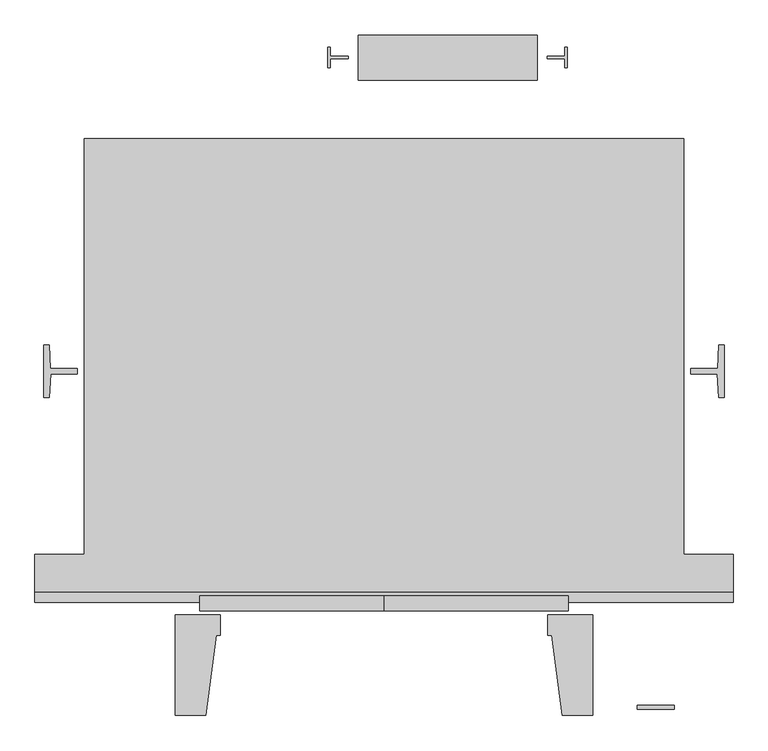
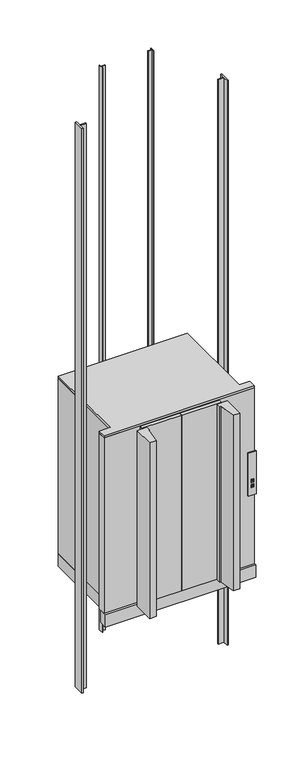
"""IFC4 building model written with IfcOpenShell, lengths in millimetres: proxy geometry, エレベーター一般1 : 6人乗."""

from ifc_helpers import new_model, si_unit, frame, origin, origin_with_axes, place, context, project, spatial, polyline, outline, extrude, source, transform, mapped, element, save


def mechanical_equipment_3dd84d69(model_context):
    return source(origin(), model_context, "Body", "SweptSolid", [
        extrude(outline(polyline([(-63.2844833, 1532.5), (372.9155167, 1532.5), (372.9155167, 1422.5), (-63.2844833, 1422.5), (-63.2844833, 1532.5)])), frame((0.0, 0.0, 500.0), z_axis=(0.0, 0.0, 1.0), x_axis=(1.0, 0.0, 0.0)), (0.0, 0.0, 1.0), 500.0),
        extrude(outline(polyline([(-811.9999995, 706.7521919), (-814.9999995, 649.5525318), (-827.9999995, 649.5525318), (-827.9999995, 776.5525318), (-814.9999995, 776.5525318), (-812.0862173, 719.2478081), (-747.0, 719.2478081), (-747.0, 706.7521919), (-811.9999995, 706.7521919)])), frame((0.0, 0.0, -1250.0), z_axis=(0.0, 0.0, 1.0), x_axis=(1.0, 0.0, 0.0)), (0.0, 0.0, 1.0), 6750.0),
        extrude(outline(polyline([(814.9999995, 649.5525318), (811.9999995, 706.7521919), (747.0, 706.7521919), (747.0, 719.2478081), (812.0862173, 719.2478081), (814.9999995, 776.5525318), (827.9999995, 776.5525318), (827.9999995, 649.5525318), (814.9999995, 649.5525318)])), frame((0.0, 0.0, -1250.0), z_axis=(0.0, 0.0, 1.0), x_axis=(1.0, 0.0, 0.0)), (0.0, 0.0, 1.0), 6750.0),
        extrude(outline(polyline([(397.2155167, 1474.5), (397.2155167, 1480.5), (440.7155167, 1480.5), (440.7155167, 1502.5), (446.7155167, 1502.5), (446.7155167, 1452.5), (440.7155167, 1452.5), (440.7155167, 1474.5), (397.2155167, 1474.5)])), frame((0.0, 0.0, -1250.0), z_axis=(0.0, 0.0, 1.0), x_axis=(1.0, 0.0, 0.0)), (0.0, 0.0, 1.0), 6750.0),
        extrude(outline(polyline([(-87.5844833, 1474.5), (-131.0844833, 1474.5), (-131.0844833, 1452.5), (-137.0844833, 1452.5), (-137.0844833, 1502.5), (-131.0844833, 1502.5), (-131.0844833, 1480.5), (-87.5844833, 1480.5), (-87.5844833, 1474.5)])), frame((0.0, 0.0, -1250.0), z_axis=(0.0, 0.0, 1.0), x_axis=(1.0, 0.0, 0.0)), (0.0, 0.0, 1.0), 6750.0),
        extrude(outline(polyline([(1241.6088693, 661.5), (1224.2883612, 651.5), (1224.2883612, 671.5), (1241.6088693, 661.5)])), frame((0.0, -110.0, 0.0), z_axis=(0.0, 1.0, 0.0), x_axis=(0.0, 0.0, 1.0)), (0.0, 0.0, 1.0), 5.0),
        extrude(outline(polyline([(1175.7116388, 651.5), (1158.3911307, 661.5), (1175.7116388, 671.5), (1175.7116388, 651.5)])), frame((0.0, -110.0, 0.0), z_axis=(0.0, 1.0, 0.0), x_axis=(0.0, 0.0, 1.0)), (0.0, 0.0, 1.0), 5.0),
        extrude(outline(polyline([(1190.0, 676.5), (1190.0, 646.5), (1150.0, 646.5), (1150.0, 676.5), (1190.0, 676.5)]), holes=[polyline([(1175.7116388, 651.5), (1175.7116388, 671.5), (1158.3911307, 661.5), (1175.7116388, 651.5)])]), frame((0.0, -110.0, 0.0), z_axis=(0.0, 1.0, 0.0), x_axis=(0.0, 0.0, 1.0)), (0.0, 0.0, 1.0), 5.0),
        extrude(outline(polyline([(1210.0, 676.5), (1250.0, 676.5), (1250.0, 646.5), (1210.0, 646.5), (1210.0, 676.5)]), holes=[polyline([(1224.2883612, 651.5), (1241.6088693, 661.5), (1224.2883612, 671.5), (1224.2883612, 651.5)])]), frame((0.0, -110.0, 0.0), z_axis=(0.0, 1.0, 0.0), x_axis=(0.0, 0.0, 1.0)), (0.0, 0.0, 1.0), 5.0),
        extrude(outline(polyline([(1575.2184789, 706.5), (1575.2184789, 616.5), (1060.2184789, 616.5), (1060.2184789, 706.5), (1575.2184789, 706.5)]), holes=[polyline([(1250.0, 646.5), (1250.0, 676.5), (1210.0, 676.5), (1210.0, 646.5), (1250.0, 646.5)]), polyline([(1190.0, 646.5), (1190.0, 676.5), (1150.0, 676.5), (1150.0, 646.5), (1190.0, 646.5)])]), frame((0.0, -110.0, 0.0), z_axis=(0.0, 1.0, 0.0), x_axis=(0.0, 0.0, 1.0)), (0.0, 0.0, 1.0), 10.0),
        extrude(outline(polyline([(850.0, 176.0), (-850.0, 176.0), (-850.0, 267.5), (-730.0, 267.5), (-730.0, 1280.0), (730.0, 1280.0), (730.0, 267.5), (850.0, 267.5), (850.0, 176.0)])), frame((0.0, 0.0, 2100.0), z_axis=(0.0, 0.0, 1.0), x_axis=(1.0, 0.0, 0.0)), (0.0, 0.0, 1.0), 25.0),
        extrude(outline(polyline([(-700.0, 1250.0), (-700.0, 450.0), (-600.0, 450.0), (-398.5, 400.0), (-398.5, 267.5), (-448.5, 267.5), (-448.5, 176.0), (-850.0, 176.0), (-850.0, 267.5), (-730.0, 267.5), (-730.0, 1280.0), (730.0, 1280.0), (730.0, 267.5), (850.0, 267.5), (850.0, 176.0), (448.5, 176.0), (448.5, 267.5), (398.5, 267.5), (398.5, 400.0), (600.0, 450.0), (700.0, 450.0), (700.0, 1250.0), (-700.0, 1250.0)])), origin_with_axes(), (0.0, 0.0, 1.0), 2100.0),
        extrude(outline(polyline([(-730.0, 1280.0), (730.0, 1280.0), (730.0, 242.5), (850.0, 242.5), (850.0, 151.0), (-850.0, 151.0), (-850.0, 242.5), (-730.0, 242.5), (-730.0, 1280.0)])), frame((0.0, 0.0, -150.0), z_axis=(0.0, 0.0, 1.0), x_axis=(1.0, 0.0, 0.0)), (0.0, 0.0, 1.0), 150.0),
        extrude(outline(polyline([(448.5, 130.0), (0.0, 130.0), (0.0, 166.0), (448.5, 166.0), (448.5, 130.0)])), origin_with_axes(), (0.0, 0.0, 1.0), 2100.0),
        extrude(outline(polyline([(448.5, 231.5), (0.0, 231.5), (0.0, 267.5), (448.5, 267.5), (448.5, 231.5)])), origin_with_axes(), (0.0, 0.0, 1.0), 2100.0),
        extrude(outline(polyline([(-448.5, 130.0), (-448.5, 166.0), (0.0, 166.0), (0.0, 130.0), (-448.5, 130.0)])), origin_with_axes(), (0.0, 0.0, 1.0), 2100.0),
        extrude(outline(polyline([(-448.5, 231.5), (-448.5, 267.5), (0.0, 267.5), (0.0, 231.5), (-448.5, 231.5)])), origin_with_axes(), (0.0, 0.0, 1.0), 2100.0),
        extrude(outline(polyline([(-434.0674122, -125.0), (-508.5, -125.0), (-508.5, 120.0), (-398.5, 120.0), (-398.5, 70.0), (-408.5, 70.0), (-434.0674122, -125.0)])), origin_with_axes(), (0.0, 0.0, 1.0), 2100.0),
        extrude(outline(polyline([(434.0674122, -125.0), (408.5, 70.0), (398.5, 70.0), (398.5, 120.0), (508.5, 120.0), (508.5, -125.0), (434.0674122, -125.0)])), origin_with_axes(), (0.0, 0.0, 1.0), 2100.0),
    ])


if __name__ == "__main__":
    model = new_model("IFC4")
    model_context = context("Model", 3, world=origin())
    ifc_project = project(units=[si_unit("LENGTHUNIT", "METRE", prefix="MILLI")], contexts=[model_context])
    site = spatial("IfcSite", under=ifc_project)
    building = spatial("IfcBuilding", under=site)
    placement = place(None, origin())
    mechanical_equipment_shape = mechanical_equipment_3dd84d69(model_context)
    element("IfcBuildingElementProxy", 1, Name="エレベーター一般1 : 6人乗", ObjectType="エレベーター一般1 : 6人乗", at=placement, inside=building, context=model_context, shape_type="MappedRepresentation", body=[
        mapped(mechanical_equipment_shape, transform((0.0, 0.0, 0.0), x_axis=(1.0, 0.0, 0.0), y_axis=(0.0, 1.0, 0.0), z_axis=(0.0, 0.0, 1.0))),
    ])
    save(model, "model.ifc")
